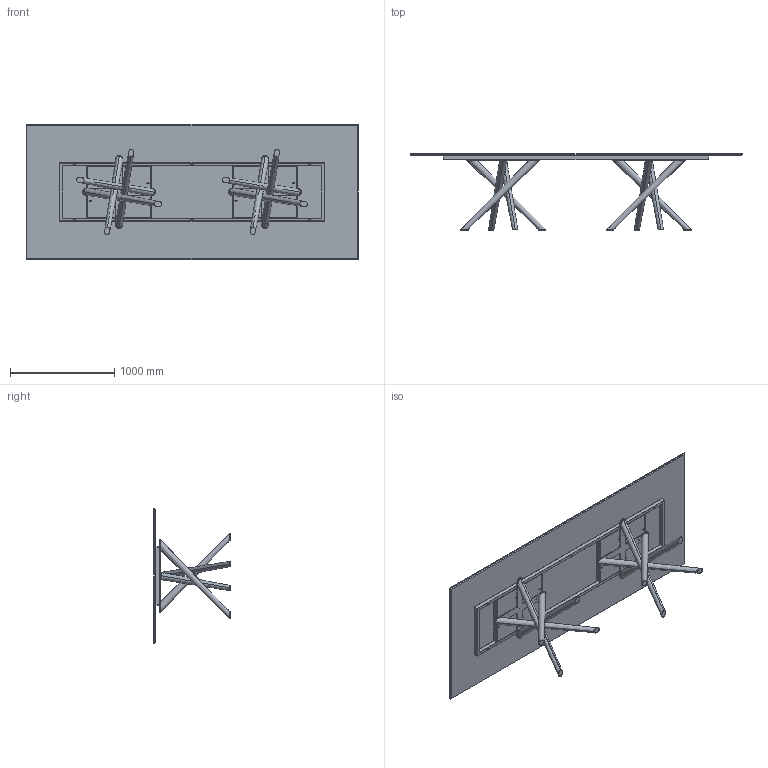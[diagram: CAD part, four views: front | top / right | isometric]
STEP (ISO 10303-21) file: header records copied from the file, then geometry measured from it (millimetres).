
FILE_DESCRIPTION (( 'STEP AP203' ), '1' );
FILE_NAME ('BA27C.STEP', '2024-08-08T06:24:41', ( '' ), ( '' ), 'SwSTEP 2.0', 'SolidWorks 2022', '' );
FILE_SCHEMA (( 'CONFIG_CONTROL_DESIGN' ));
Length unit declared in the file: millimetre
Products named in the file (9): BAB000000_01-00-Croce Superiore baly; TTAV03_02-06-VASSOIO IRRIGIDIMENTO TELAIO UNIVERSALE RETTANGOLARE; Parte5^BAB000000-00-BALY BASE GREZZA; BA27C; TTAV03_01-06-RING TUBO TELAIO UNIVERSALE X TAVOLI 300-340cm; BAB000000_02-00-basamento pali conificati; TTAV03-06-TELAIO UNIVERSALE X TAVOLI 300-340cm; K2XCMXX-00-Piani Rettangolari in ceramica_3190 x 1300; BAB000000-00-BALY BASE GREZZA
Assembly tree (10 placements, depth 3):
  BA27C
    K2XCMXX-00-Piani Rettangolari in ceramica_3190 x 1300
    TTAV03-06-TELAIO UNIVERSALE X TAVOLI 300-340cm
      TTAV03_01-06-RING TUBO TELAIO UNIVERSALE X TAVOLI 300-340cm
      TTAV03_02-06-VASSOIO IRRIGIDIMENTO TELAIO UNIVERSALE RETTANGOLARE  x2
    BAB000000-00-BALY BASE GREZZA  x2
      BAB000000_01-00-Croce Superiore baly
      BAB000000_02-00-basamento pali conificati
      Parte5^BAB000000-00-BALY BASE GREZZA
Bounding box: 3190 x 731 x 1300 mm (x, y, z)
Volume: 75422939.6 mm3; surface area: 23079490.1 mm2
Topology: 23 solids, 23 shells, 574 faces, 1410 edges, 876 vertices
Faces by surface type: plane 284, cylinder 202, cone 64, bspline 16, sphere 8
Entity records: 13070 total; most frequent: CARTESIAN_POINT 3541, DIRECTION 1771, ORIENTED_EDGE 1754, EDGE_CURVE 877, AXIS2_PLACEMENT_3D 612, VERTEX_POINT 550, VECTOR 547, LINE 547
